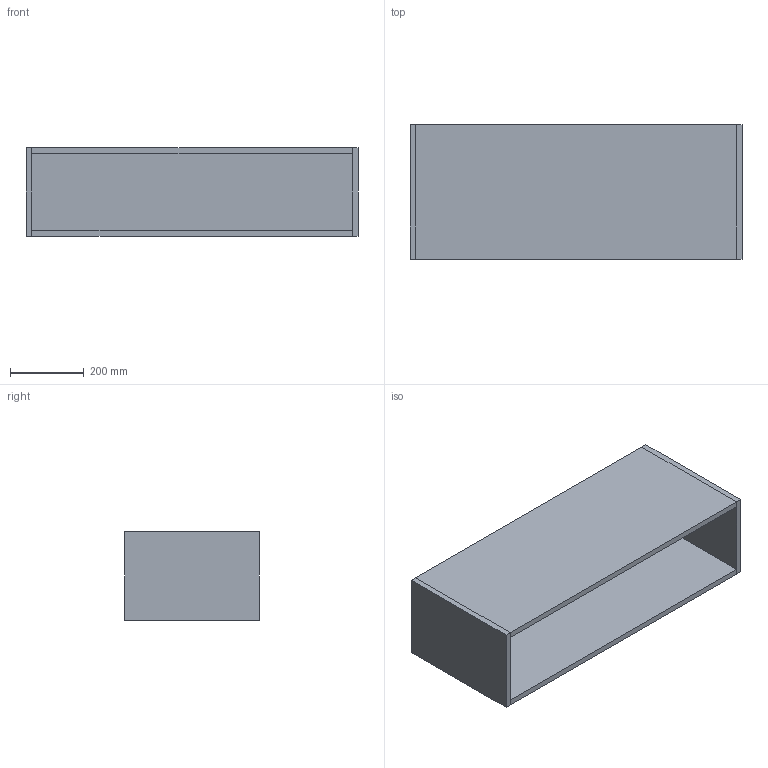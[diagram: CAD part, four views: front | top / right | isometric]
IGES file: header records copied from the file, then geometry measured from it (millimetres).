
Start section: Data from Parasolid IGES Translator 19.0.9, Copyright(c) 2006 Siemens PL M Software. All Rights Reserved.
Global section: file name: noorth-SI-H 24 D 38,8 W 90_8283.igs; native system: By Siemens PLM Incorporated; preprocessor: XPlus GENERIC/IGES 19.0.9; author: Noname; organization: Noname; date: 20200530.105420; units: metre
Bounding box: 900.01 x 364.06 x 240 mm (x, y, z)
Volume: 13423531.4 mm3; surface area: 2098184.7 mm2
Topology: 5 solids, 5 shells, 30 faces, 60 edges, 40 vertices
Faces by surface type: plane 30
